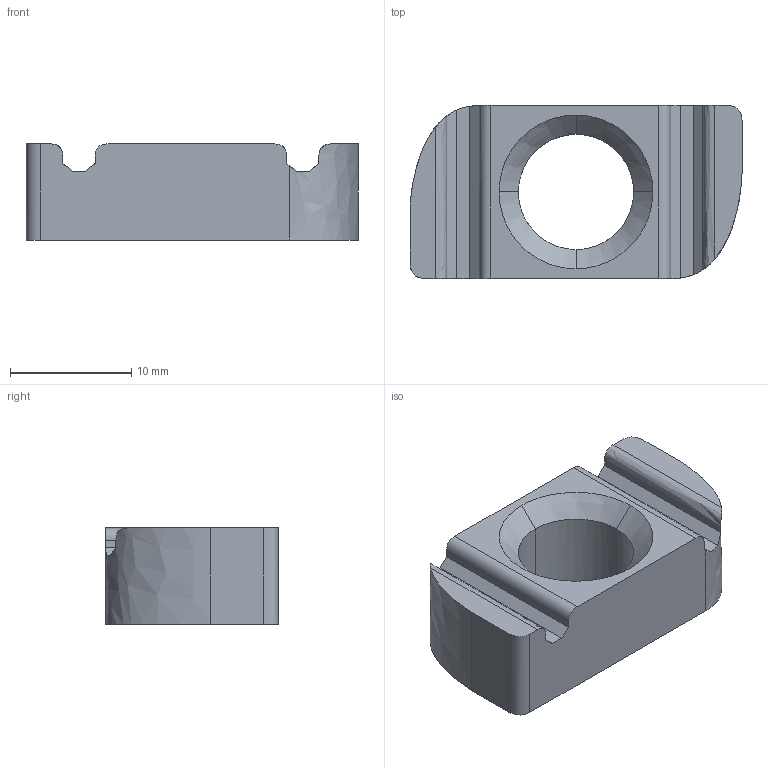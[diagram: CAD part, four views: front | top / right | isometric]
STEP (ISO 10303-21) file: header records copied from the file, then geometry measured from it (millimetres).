
FILE_DESCRIPTION(('TurboCAD Mac Pro'),'Build 980');
FILE_NAME('A3008.stp',' ',(''),(''),'ACIS Interop','IMSI','TurboCAD Mac Pro BY IMSI, INCORPORATED');
FILE_SCHEMA(('automotive_design'));
Length unit declared in the file: inch
Products named in the file (1): 1
Bounding box: 27.43 x 14.29 x 7.93 mm (x, y, z)
Volume: 2168.2 mm3; surface area: 1476.8 mm2
Topology: 1 solids, 1 shells, 34 faces, 92 edges, 60 vertices
Faces by surface type: plane 18, bspline 16
Entity records: 1834 total; most frequent: CARTESIAN_POINT 805, ORIENTED_EDGE 184, EDGE_CURVE 92, DIRECTION 90, VERTEX_POINT 60, LINE 52, VECTOR 52, B_SPLINE_CURVE_WITH_KNOTS 40
